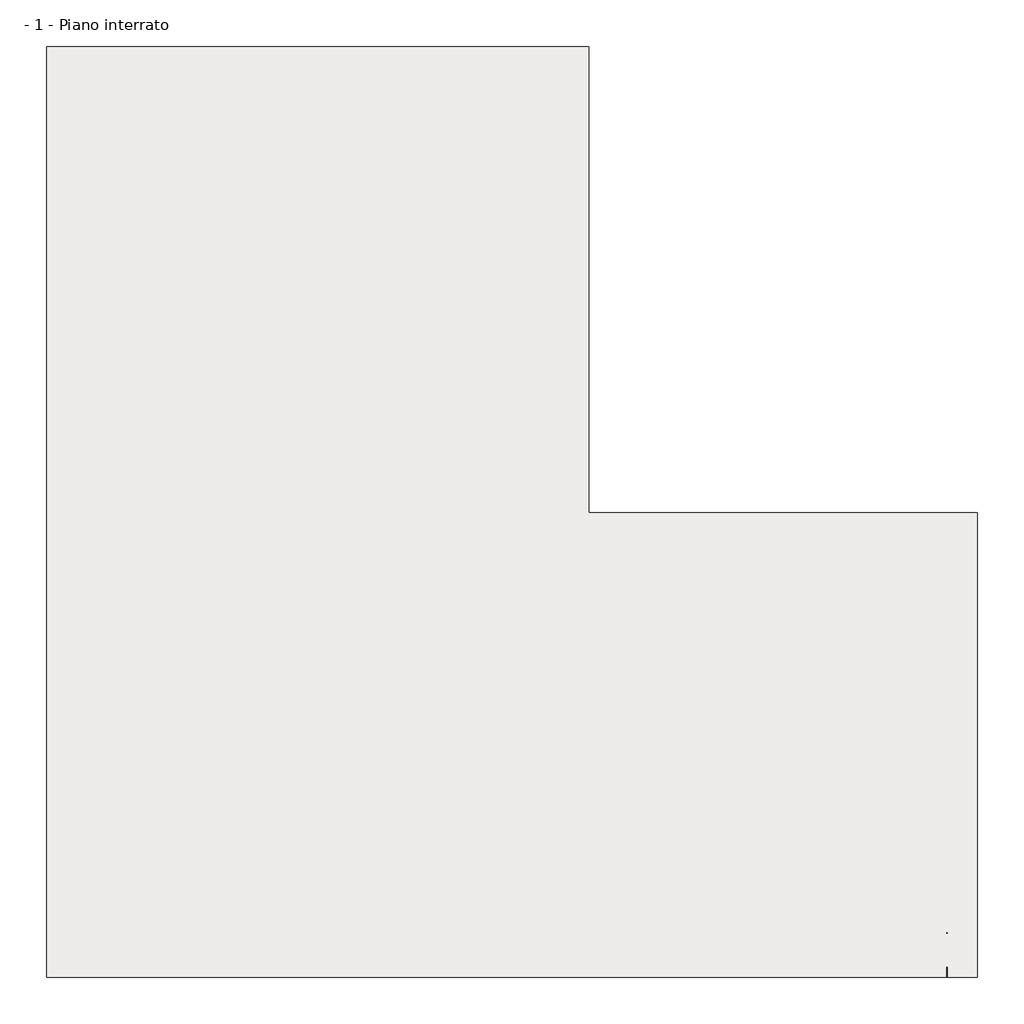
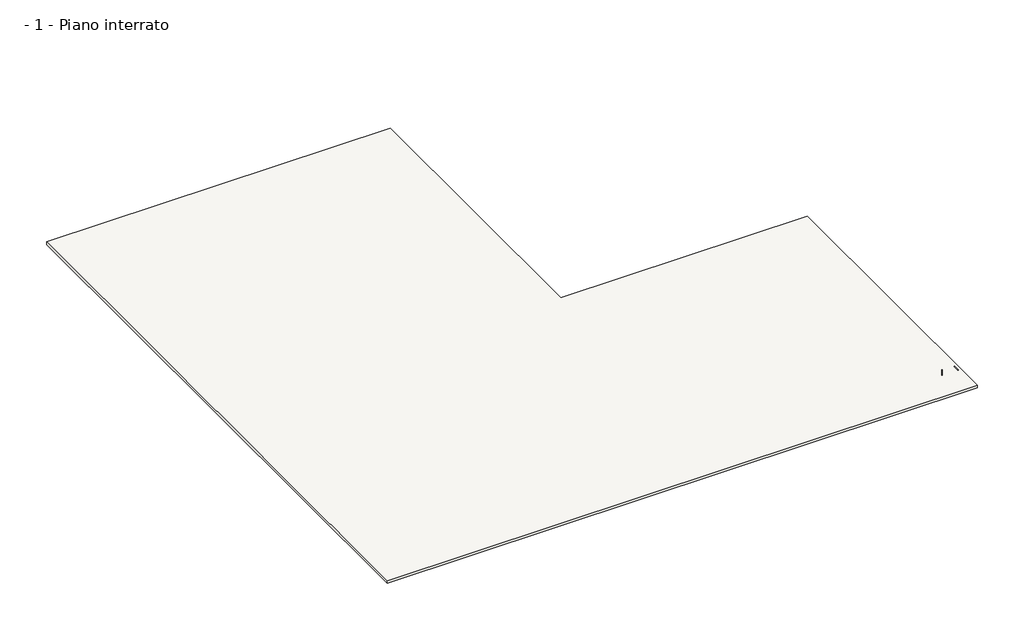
# One storey: 2 proxies, 1 slab.
"""IFC4 building model written with IfcOpenShell, lengths in millimetres."""

from ifc_helpers import new_model, si_unit, frame, origin, place, context, project, spatial, polyline, outline, extrude, transform, mapped, element, save
from components import generic_models_3b7ed561

model = new_model("IFC4")

# Units and contexts
model_context = context("Model", 3, world=origin())
ifc_project = project(units=[si_unit("LENGTHUNIT", "METRE", prefix="MILLI")], contexts=[model_context])

# Site, building, storey
site = spatial("IfcSite", under=ifc_project)
building = spatial("IfcBuilding", under=site)
storey = spatial("IfcBuildingStorey", under=building, Name="- 1 - Piano interrato", Elevation=-2500.0)

# Proxies
placement = place(None, origin())
generic_models_shape = generic_models_3b7ed561(model_context)
element("IfcBuildingElementProxy", 1, Name="ITA-Connettori su parete verticale sigillati con AKTI-VO 201 : ITA-Connettori su parete verticale sigillati con AKTI-VO 201", ObjectType="ITA-Connettori su parete verticale sigillati con AKTI-VO 201 : ITA-Connettori su parete verticale sigillati con AKTI-VO 201", at=placement, inside=storey, context=model_context, shape_type="MappedRepresentation", body=[
    mapped(generic_models_shape, transform((1122.4910633, -15630.7761472, -2255.1972589), x_axis=(-1.0, 0.0, 0.0), y_axis=(0.0, 0.0, 1.0), z_axis=(0.0, 1.0, 0.0))),
])
element("IfcBuildingElementProxy", 2, Name="ITA-Connettori su struttura orizzontale sigillati con AKTI-VO 201 : ITA-Connettori su struttura orizzontale sigillati con AKTI-VO 201", ObjectType="ITA-Connettori su struttura orizzontale sigillati con AKTI-VO 201 : ITA-Connettori su struttura orizzontale sigillati con AKTI-VO 201", at=placement, inside=storey, context=model_context, shape_type="MappedRepresentation", body=[
    mapped(generic_models_shape, transform((1122.4910633, -14710.7761472, -3000.0), x_axis=(-1.0, 0.0, 0.0), y_axis=(0.0, -1.0, 0.0), z_axis=(0.0, 0.0, 1.0))),
])

# Slab
element("IfcSlab", 3, ObjectType="Magrone - 10 cm", at=placement, inside=storey, context=model_context, shape_type="SweptSolid", body=[
    extrude(outline(polyline([(-17857.5089367, 3978.003934), (-6426.5891533, 3978.003934), (-6426.5891533, -5845.9559577), (1762.3707384, -5845.9559577), (1762.3707384, -15645.7761472), (-17857.5089367, -15645.7761472), (-17857.5089367, 3978.003934)])), frame((0.0, 0.0, -3100.0), z_axis=(0.0, 0.0, 1.0), x_axis=(1.0, 0.0, 0.0)), (0.0, 0.0, 1.0), 100.0),
])

save(model, "model.ifc")
